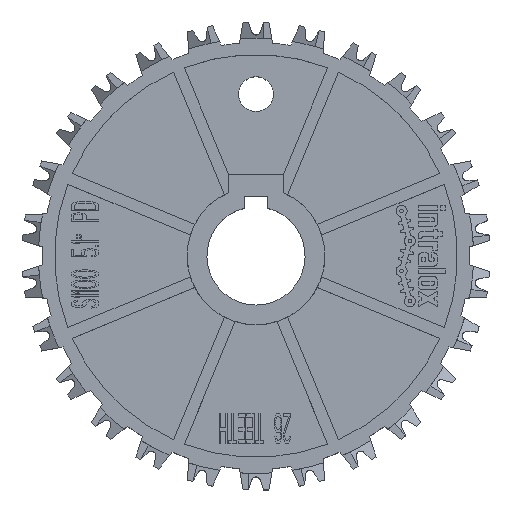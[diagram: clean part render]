
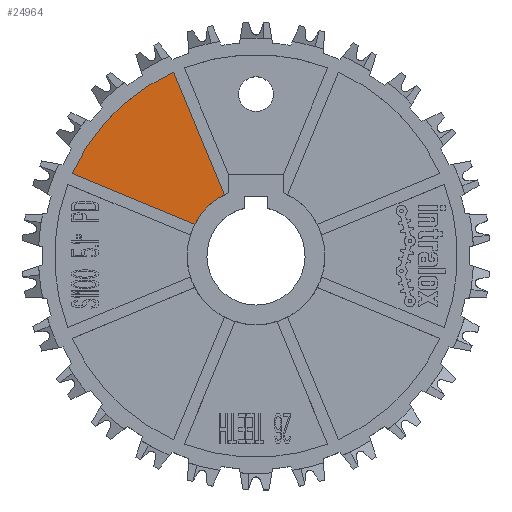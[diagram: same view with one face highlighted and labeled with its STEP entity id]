
A CAD part, top view. The second image highlights one B-rep face of the part: STEP entity #24964.
In plain terms, the highlighted planar face has unit normal (0, 0, 1).
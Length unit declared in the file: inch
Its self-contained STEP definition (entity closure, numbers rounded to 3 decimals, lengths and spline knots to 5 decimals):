
#8321=CARTESIAN_POINT('',(0.,0.,0.09));
#8322=DIRECTION('',(0.,0.,1.));
#8323=DIRECTION('',(-0.459,0.889,0.));
#8324=AXIS2_PLACEMENT_3D('',#8321,#8322,#8323);
#13633=DIRECTION('',(0.924,-0.383,0.));
#13634=VECTOR('',#13633,1.43473);
#13635=CARTESIAN_POINT('',(-1.98746,0.89088,0.09));
#13636=LINE('',#13635,#13634);
#13646=CARTESIAN_POINT('',(0.,0.,0.09));
#13647=DIRECTION('',(0.,0.,1.));
#13648=DIRECTION('',(-0.409,0.913,0.));
#13649=AXIS2_PLACEMENT_3D('',#13646,#13647,#13648);
#13667=DIRECTION('',(-0.383,0.924,0.));
#13668=VECTOR('',#13667,1.43473);
#13669=CARTESIAN_POINT('',(-0.34184,0.66195,0.09));
#13670=LINE('',#13669,#13668);
#15261=CARTESIAN_POINT('',(-0.89088,1.98746,0.09));
#15262=CARTESIAN_POINT('',(-1.98746,0.89088,0.09));
#15263=VERTEX_POINT('',#15261);
#15264=VERTEX_POINT('',#15262);
#15411=CARTESIAN_POINT('',(-0.34184,0.66195,0.09));
#15412=VERTEX_POINT('',#15411);
#15415=CARTESIAN_POINT('',(-0.66195,0.34184,0.09));
#15416=VERTEX_POINT('',#15415);
#24950=CARTESIAN_POINT('',(0.,0.,0.09));
#24951=DIRECTION('',(0.,0.,1.));
#24952=DIRECTION('',(1.,0.,0.));
#24953=AXIS2_PLACEMENT_3D('',#24950,#24951,#24952);
#24954=PLANE('',#24953);
#24955=ORIENTED_EDGE('',*,*,#24474,.T.);
#24957=ORIENTED_EDGE('',*,*,#24956,.F.);
#24959=ORIENTED_EDGE('',*,*,#24958,.F.);
#24961=ORIENTED_EDGE('',*,*,#24960,.F.);
#24962=EDGE_LOOP('',(#24955,#24957,#24959,#24961));
#24963=FACE_OUTER_BOUND('',#24962,.F.);
#24964=ADVANCED_FACE('',(#24963),#24954,.T.);
#8325=CIRCLE('',#8324,0.745);
#13650=CIRCLE('',#13649,2.178);
#24474=EDGE_CURVE('',#15412,#15416,#8325,.T.);
#24956=EDGE_CURVE('',#15264,#15416,#13636,.T.);
#24958=EDGE_CURVE('',#15263,#15264,#13650,.T.);
#24960=EDGE_CURVE('',#15412,#15263,#13670,.T.);
